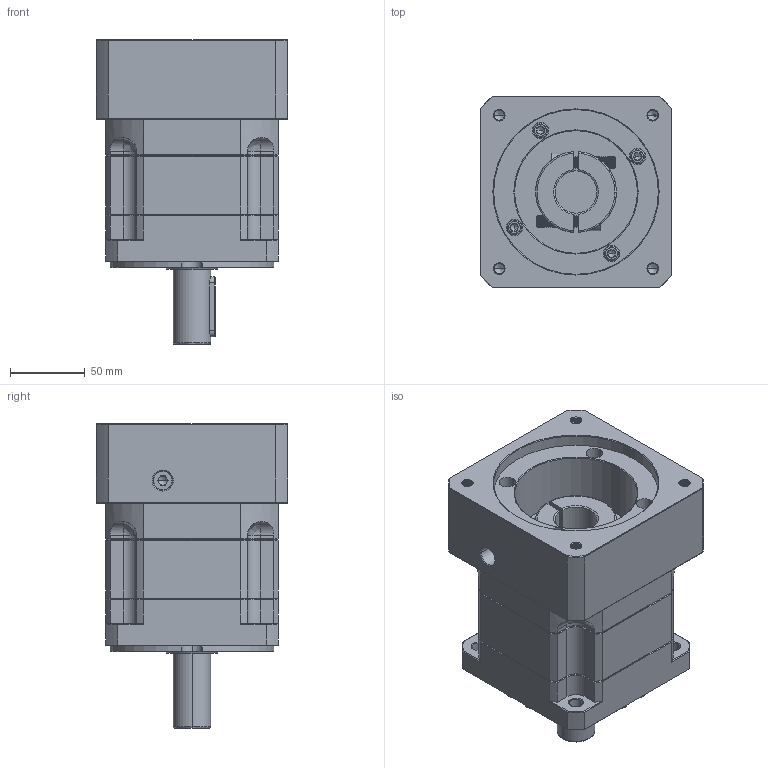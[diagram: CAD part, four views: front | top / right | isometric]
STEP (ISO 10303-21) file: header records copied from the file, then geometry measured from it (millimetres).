
FILE_DESCRIPTION (( 'STEP AP214' ), '1' );
FILE_NAME ('ZB115A-D25-L1-28-110-145-M8.step', '2023-03-02T08:56:48', ( '' ), ( 'Microsoft' ), 'SwSTEP 2.0', 'SolidWorks 2016', '' );
FILE_SCHEMA (( 'AUTOMOTIVE_DESIGN' ));
Length unit declared in the file: millimetre
Products named in the file (1): ZB115A-D25-L1-28-110-145-M8
Bounding box: 128 x 128 x 203.5 mm (x, y, z)
Volume: 1758670.8 mm3; surface area: 183519 mm2
Topology: 6 solids, 6 shells, 2112 faces, 5456 edges, 3438 vertices
Faces by surface type: plane 963, cylinder 439, cone 365, bspline 325, torus 20
Entity records: 112813 total; most frequent: CARTESIAN_POINT 40997, ORIENTED_EDGE 10844, DIRECTION 8892, EDGE_CURVE 5422, VERTEX_POINT 3438, VECTOR 3370, LINE 3370, AXIS2_PLACEMENT_3D 2761
